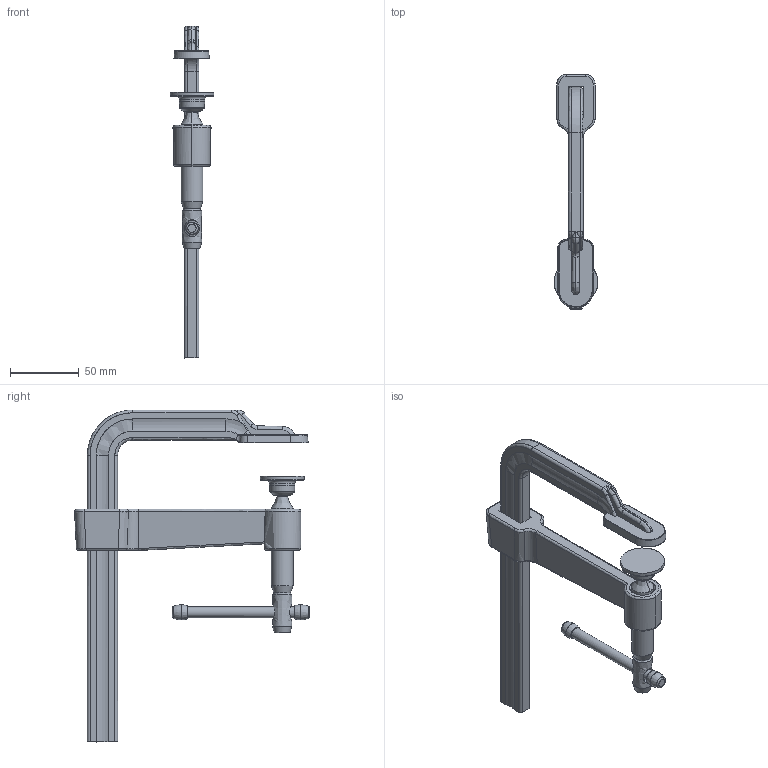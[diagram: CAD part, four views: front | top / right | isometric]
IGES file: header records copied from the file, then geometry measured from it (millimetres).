
Start section: ZWSOFT
Global section: file name: SQ-4.igs; native system: ZW3D; preprocessor: 1.0; author: ZW3D; organization: ZWSOFT; date: 151019.150007; units: millimetre
Bounding box: 32 x 171.31 x 242 mm (x, y, z)
Surface area: 52607.3 mm2 (no closed solid volume)
Topology: 0 solids, 0 shells, 181 faces, 872 edges, 811 vertices
Faces by surface type: bspline 181
